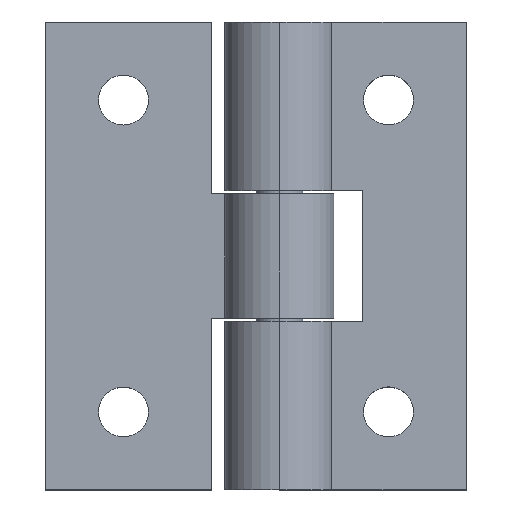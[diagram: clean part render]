
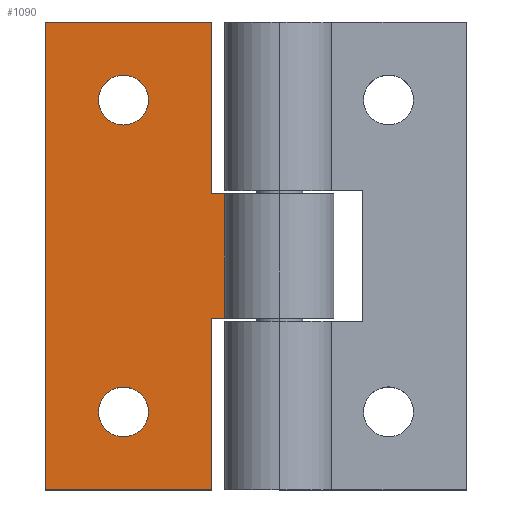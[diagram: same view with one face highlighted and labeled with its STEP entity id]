
A CAD part, top view. The second image highlights one B-rep face of the part: STEP entity #1090.
In plain terms, the highlighted planar face has unit normal (0, 0, 1).
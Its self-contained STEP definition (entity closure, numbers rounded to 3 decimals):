
#7 = VERTEX_POINT ( 'NONE', #468 ) ;
#26 = DIRECTION ( 'NONE',  ( 0., 0., 1. ) ) ;
#50 = LINE ( 'NONE', #756, #693 ) ;
#56 = CARTESIAN_POINT ( 'NONE',  ( -8.4, 10., -1. ) ) ;
#60 = LINE ( 'NONE', #838, #1223 ) ;
#72 = AXIS2_PLACEMENT_3D ( 'NONE', #75, #476, #674 ) ;
#75 = CARTESIAN_POINT ( 'NONE',  ( 0., -4., -1. ) ) ;
#94 = CARTESIAN_POINT ( 'NONE',  ( -10., 10., -1. ) ) ;
#126 = CARTESIAN_POINT ( 'NONE',  ( -15., 15., -1. ) ) ;
#132 = CARTESIAN_POINT ( 'NONE',  ( -8.4, -10., -1. ) ) ;
#142 = ORIENTED_EDGE ( 'NONE', *, *, #970, .F. ) ;
#181 = ORIENTED_EDGE ( 'NONE', *, *, #1204, .T. ) ;
#185 = AXIS2_PLACEMENT_3D ( 'NONE', #94, #495, #784 ) ;
#196 = CARTESIAN_POINT ( 'NONE',  ( -4.354, 15., -1. ) ) ;
#201 = ORIENTED_EDGE ( 'NONE', *, *, #883, .F. ) ;
#202 = DIRECTION ( 'NONE',  ( 0., 0., 1. ) ) ;
#208 = ORIENTED_EDGE ( 'NONE', *, *, #1061, .T. ) ;
#245 = DIRECTION ( 'NONE',  ( 1., 0., 0. ) ) ;
#261 = VERTEX_POINT ( 'NONE', #1260 ) ;
#262 = DIRECTION ( 'NONE',  ( 0., 0., 1. ) ) ;
#272 = CIRCLE ( 'NONE', #407, 1.6 ) ;
#294 = DIRECTION ( 'NONE',  ( 0., 1., 0. ) ) ;
#307 = EDGE_CURVE ( 'NONE', #7, #940, #882, .T. ) ;
#349 = EDGE_CURVE ( 'NONE', #589, #261, #1193, .T. ) ;
#379 = PLANE ( 'NONE',  #72 ) ;
#393 = VECTOR ( 'NONE', #1203, 1000. ) ;
#407 = AXIS2_PLACEMENT_3D ( 'NONE', #628, #26, #727 ) ;
#432 = EDGE_CURVE ( 'NONE', #261, #589, #272, .T. ) ;
#435 = DIRECTION ( 'NONE',  ( 1., 0., 0. ) ) ;
#446 = LINE ( 'NONE', #648, #737 ) ;
#448 = VERTEX_POINT ( 'NONE', #1113 ) ;
#460 = VERTEX_POINT ( 'NONE', #132 ) ;
#468 = CARTESIAN_POINT ( 'NONE',  ( -4.354, -4., -1. ) ) ;
#473 = VECTOR ( 'NONE', #435, 1000. ) ;
#474 = CARTESIAN_POINT ( 'NONE',  ( -4.354, -15., -1. ) ) ;
#476 = DIRECTION ( 'NONE',  ( 0., 0., 1. ) ) ;
#480 = EDGE_CURVE ( 'NONE', #1128, #1194, #632, .T. ) ;
#483 = FACE_OUTER_BOUND ( 'NONE', #617, .T. ) ;
#492 = VERTEX_POINT ( 'NONE', #126 ) ;
#495 = DIRECTION ( 'NONE',  ( 0., 0., 1. ) ) ;
#509 = AXIS2_PLACEMENT_3D ( 'NONE', #604, #202, #889 ) ;
#531 = ORIENTED_EDGE ( 'NONE', *, *, #480, .T. ) ;
#542 = ORIENTED_EDGE ( 'NONE', *, *, #652, .F. ) ;
#559 = CARTESIAN_POINT ( 'NONE',  ( -3.354, -4., -1. ) ) ;
#570 = LINE ( 'NONE', #474, #987 ) ;
#578 = ORIENTED_EDGE ( 'NONE', *, *, #659, .F. ) ;
#589 = VERTEX_POINT ( 'NONE', #56 ) ;
#596 = CARTESIAN_POINT ( 'NONE',  ( -15., -15., -1. ) ) ;
#604 = CARTESIAN_POINT ( 'NONE',  ( -10., -10., -1. ) ) ;
#617 = EDGE_LOOP ( 'NONE', ( #542, #181, #142, #201, #531, #208, #894, #1227 ) ) ;
#628 = CARTESIAN_POINT ( 'NONE',  ( -10., 10., -1. ) ) ;
#629 = CIRCLE ( 'NONE', #509, 1.6 ) ;
#632 = LINE ( 'NONE', #833, #473 ) ;
#637 = ORIENTED_EDGE ( 'NONE', *, *, #432, .F. ) ;
#648 = CARTESIAN_POINT ( 'NONE',  ( 0., 15., -1. ) ) ;
#652 = EDGE_CURVE ( 'NONE', #853, #1212, #50, .T. ) ;
#659 = EDGE_CURVE ( 'NONE', #460, #448, #884, .T. ) ;
#674 = DIRECTION ( 'NONE',  ( 1., 0., 0. ) ) ;
#687 = CARTESIAN_POINT ( 'NONE',  ( 0., -4., -1. ) ) ;
#693 = VECTOR ( 'NONE', #1160, 1000. ) ;
#711 = EDGE_CURVE ( 'NONE', #448, #460, #629, .T. ) ;
#727 = DIRECTION ( 'NONE',  ( 1., 0., 0. ) ) ;
#737 = VECTOR ( 'NONE', #245, 1000. ) ;
#742 = DIRECTION ( 'NONE',  ( 1., 0., 0. ) ) ;
#756 = CARTESIAN_POINT ( 'NONE',  ( 0., 4., -1. ) ) ;
#765 = CARTESIAN_POINT ( 'NONE',  ( -4.354, -15., -1. ) ) ;
#766 = ORIENTED_EDGE ( 'NONE', *, *, #349, .F. ) ;
#784 = DIRECTION ( 'NONE',  ( 1., 0., 0. ) ) ;
#825 = LINE ( 'NONE', #1016, #957 ) ;
#833 = CARTESIAN_POINT ( 'NONE',  ( 0., -15., -1. ) ) ;
#838 = CARTESIAN_POINT ( 'NONE',  ( -3.354, -4., -1. ) ) ;
#853 = VERTEX_POINT ( 'NONE', #1127 ) ;
#871 = CARTESIAN_POINT ( 'NONE',  ( -3.354, 4., -1. ) ) ;
#882 = LINE ( 'NONE', #687, #393 ) ;
#883 = EDGE_CURVE ( 'NONE', #1128, #492, #825, .T. ) ;
#884 = CIRCLE ( 'NONE', #1286, 1.6 ) ;
#889 = DIRECTION ( 'NONE',  ( 1., 0., 0. ) ) ;
#891 = CARTESIAN_POINT ( 'NONE',  ( -4.354, -15., -1. ) ) ;
#894 = ORIENTED_EDGE ( 'NONE', *, *, #307, .T. ) ;
#940 = VERTEX_POINT ( 'NONE', #559 ) ;
#955 = DIRECTION ( 'NONE',  ( 0., 1., 0. ) ) ;
#957 = VECTOR ( 'NONE', #1036, 1000. ) ;
#965 = CARTESIAN_POINT ( 'NONE',  ( -10., -10., -1. ) ) ;
#970 = EDGE_CURVE ( 'NONE', #492, #1119, #446, .T. ) ;
#985 = FACE_BOUND ( 'NONE', #1134, .T. ) ;
#987 = VECTOR ( 'NONE', #1281, 1000. ) ;
#1008 = EDGE_CURVE ( 'NONE', #940, #1212, #60, .T. ) ;
#1016 = CARTESIAN_POINT ( 'NONE',  ( -15., -4., -1. ) ) ;
#1017 = ORIENTED_EDGE ( 'NONE', *, *, #711, .F. ) ;
#1036 = DIRECTION ( 'NONE',  ( 0., 1., 0. ) ) ;
#1061 = EDGE_CURVE ( 'NONE', #1194, #7, #1070, .T. ) ;
#1070 = LINE ( 'NONE', #765, #1182 ) ;
#1086 = FACE_BOUND ( 'NONE', #1292, .T. ) ;
#1090 = ADVANCED_FACE ( 'NONE', ( #985, #1086, #483 ), #379, .T. ) ;
#1113 = CARTESIAN_POINT ( 'NONE',  ( -11.6, -10., -1. ) ) ;
#1119 = VERTEX_POINT ( 'NONE', #196 ) ;
#1127 = CARTESIAN_POINT ( 'NONE',  ( -4.354, 4., -1. ) ) ;
#1128 = VERTEX_POINT ( 'NONE', #596 ) ;
#1134 = EDGE_LOOP ( 'NONE', ( #637, #766 ) ) ;
#1160 = DIRECTION ( 'NONE',  ( 1., 0., 0. ) ) ;
#1182 = VECTOR ( 'NONE', #294, 1000. ) ;
#1193 = CIRCLE ( 'NONE', #185, 1.6 ) ;
#1194 = VERTEX_POINT ( 'NONE', #891 ) ;
#1203 = DIRECTION ( 'NONE',  ( 1., 0., 0. ) ) ;
#1204 = EDGE_CURVE ( 'NONE', #853, #1119, #570, .T. ) ;
#1212 = VERTEX_POINT ( 'NONE', #871 ) ;
#1223 = VECTOR ( 'NONE', #955, 1000. ) ;
#1227 = ORIENTED_EDGE ( 'NONE', *, *, #1008, .T. ) ;
#1260 = CARTESIAN_POINT ( 'NONE',  ( -11.6, 10., -1. ) ) ;
#1281 = DIRECTION ( 'NONE',  ( 0., 1., 0. ) ) ;
#1286 = AXIS2_PLACEMENT_3D ( 'NONE', #965, #262, #742 ) ;
#1292 = EDGE_LOOP ( 'NONE', ( #1017, #578 ) ) ;
